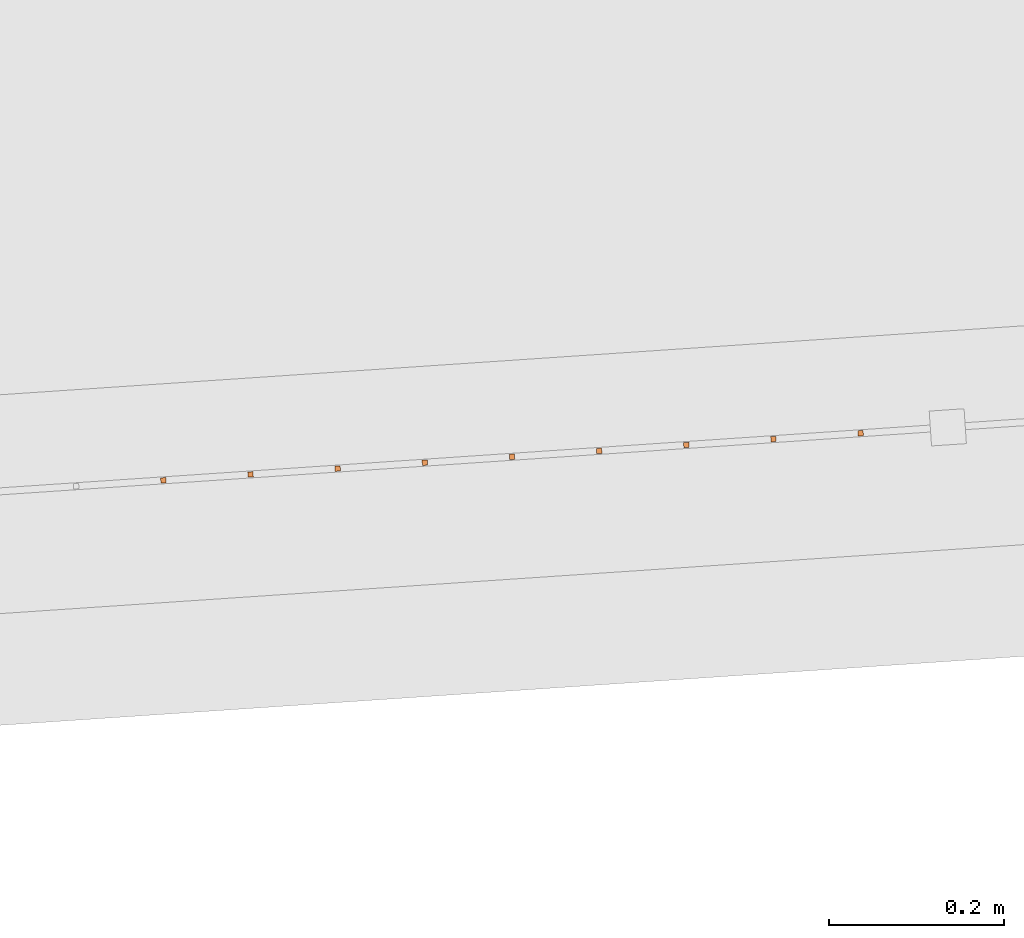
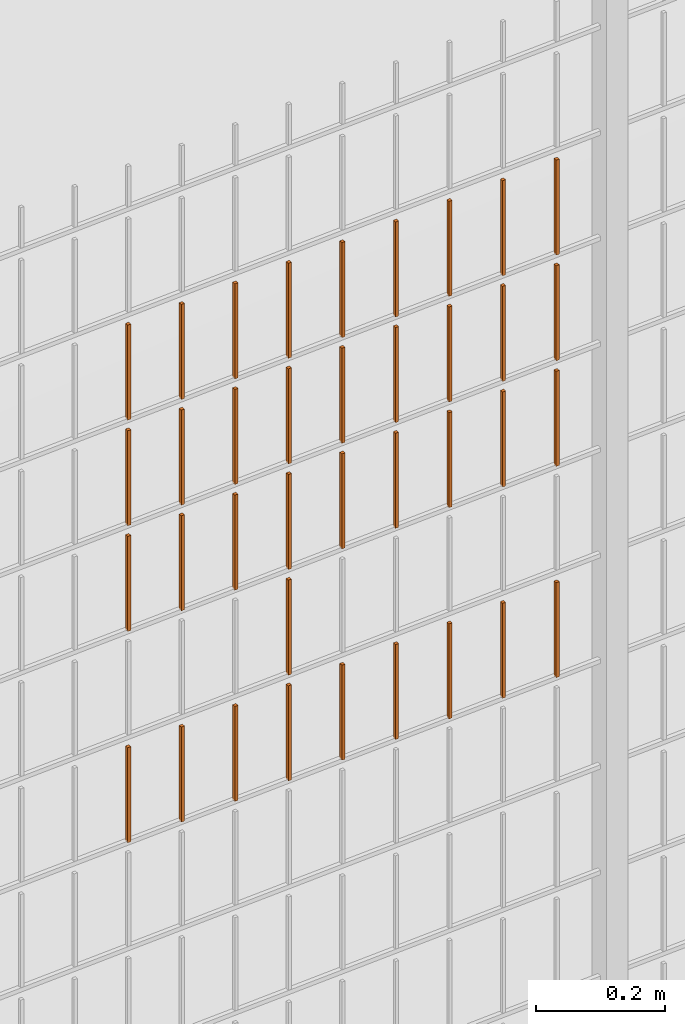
# One storey, part 208 of 1809: 37 proxies, 1 element without a shape of its own.
"""IFC2X3 building model written with IfcOpenShell, lengths in millimetres."""

from ifc_helpers import new_model, entity, si_unit, converted_unit, derived_unit, money_unit, direction, frame, origin_with_axes, place, context, subcontext, project, spatial, faceted_brep, source, transform, mapped, material, type_object, element, aggregate, save


model = new_model("IFC2X3")

# Units and contexts
model_context = context("Model", 3, precision=0.01, world=origin_with_axes(), true_north=direction((0.0, 1.0)))
body_context = subcontext(model_context, "Body", "Model", "MODEL_VIEW")
ifc_project = project(units=[si_unit("LENGTHUNIT", "METRE", prefix="MILLI"), si_unit("AREAUNIT", "SQUARE_METRE"), si_unit("VOLUMEUNIT", "CUBIC_METRE"), converted_unit("PLANEANGLEUNIT", "DEGREE", entity("IfcPlaneAngleMeasure", 0.0174532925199), si_unit("PLANEANGLEUNIT", "RADIAN"), dimensions=[0, 0, 0, 0, 0, 0, 0]), si_unit("SOLIDANGLEUNIT", "STERADIAN"), money_unit("EUR"), converted_unit("TIMEUNIT", "Year", entity("IfcTimeMeasure", 31556926.0), si_unit("TIMEUNIT", "SECOND"), dimensions=[0, 0, 1, 0, 0, 0, 0]), si_unit("MASSUNIT", "GRAM", prefix="KILO"), si_unit("THERMODYNAMICTEMPERATUREUNIT", "DEGREE_CELSIUS"), si_unit("LUMINOUSINTENSITYUNIT", "LUMEN"), si_unit("ENERGYUNIT", "JOULE", prefix="MEGA"), derived_unit("THERMALCONDUCTANCEUNIT", [(si_unit("POWERUNIT", "WATT"), 1), (si_unit("LENGTHUNIT", "METRE"), -1), (si_unit("THERMODYNAMICTEMPERATUREUNIT", "KELVIN"), -1)]), derived_unit("SPECIFICHEATCAPACITYUNIT", [(si_unit("ENERGYUNIT", "JOULE"), 1), (si_unit("MASSUNIT", "GRAM", prefix="KILO"), -1), (si_unit("THERMODYNAMICTEMPERATUREUNIT", "KELVIN"), -1)]), derived_unit("MASSDENSITYUNIT", [(si_unit("MASSUNIT", "GRAM", prefix="KILO"), 1), (si_unit("VOLUMEUNIT", "CUBIC_METRE"), -1)])], contexts=[model_context])

# Site, building, storey
site_placement = place(None, origin_with_axes())
site = spatial("IfcSite", under=ifc_project, at=site_placement, Name="Politse- ja Piirivalveameti ning Päästeameti ühishoone", CompositionType="ELEMENT")
building_placement = place(site_placement, origin_with_axes())
building = spatial("IfcBuilding", under=site, at=building_placement, Name="Politse- ja Piirivalveameti ning Päästeameti ühishoone", CompositionType="ELEMENT")
storey_placement = place(building_placement, origin_with_axes())
storey = spatial("IfcBuildingStorey", under=building, at=storey_placement, Name="Esimene korrus", CompositionType="ELEMENT", Elevation=0.0)

# Proxies
building_element_proxy_type_1 = type_object("IfcBuildingElementProxyType", Name="Railing Type", PredefinedType="NOTDEFINED")
proxy_1_placement = place(storey_placement, frame((89252.001212, -29183.4766571, 203.661247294), z_axis=(0.0, 0.0, 1.0), x_axis=(1.0, 0.0, 0.0)))
proxy_1 = element("IfcBuildingElementProxy", 1, at=proxy_1_placement, inside=storey, type_object=building_element_proxy_type_1, Name="PIIRDEAED")
ifc_material = material(Name="ET-03_Raud")
building_element_proxy_type_2 = type_object("IfcBuildingElementProxyType", Name="IfcBuildingElementProxy", PredefinedType="NOTDEFINED")
shared_shape_1 = source(origin_with_axes(), body_context, "Body", "Brep", [
    faceted_brep([(3.0, 3.0, -0.000752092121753), (-3.0, 3.0, -0.000752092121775), (-3.0, 3.0, 179.99926046), (3.0, 3.0, 179.99926046), (3.0, -3.0, 0.000752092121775), (-3.0, -3.0, 0.000752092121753), (-3.0, -3.0, 180.000764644), (3.0, -3.0, 180.000764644)], [[[0, 1, 2, 3]], [[0, 4, 5, 1]], [[1, 5, 6, 2]], [[3, 2, 6, 7]], [[4, 0, 3, 7]], [[5, 4, 7, 6]]]),
])
proxy_2_placement = place(proxy_1_placement, frame((-62783.6260468, -21538.5717642, 811.458830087), z_axis=(0.0, 0.0, 1.0), x_axis=(1.0, 0.0, 0.0)))
proxy_2 = element("IfcBuildingElementProxy", 2, at=proxy_2_placement, type_object=building_element_proxy_type_2, material=ifc_material, Name="BALUSTER - 001", context=body_context, shape_type="MappedRepresentation", body=[
    mapped(shared_shape_1, transform((0.0, 0.0, 0.0), x_axis=(-0.0673926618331, 0.997726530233, 0.0), y_axis=(-0.997726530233, -0.0673926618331, 0.0), z_axis=(0.0, 0.0, 1.0))),
])
shared_shape_2 = source(origin_with_axes(), body_context, "Body", "Brep", [
    faceted_brep([(3.0, 3.0, -0.000752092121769), (-3.0, 3.0, -0.000752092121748), (-3.0, 3.0, 179.99926046), (3.0, 3.0, 179.99926046), (3.0, -3.0, 0.000752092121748), (-3.0, -3.0, 0.000752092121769), (-3.0, -3.0, 180.000764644), (3.0, -3.0, 180.000764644)], [[[0, 1, 2, 3]], [[0, 4, 5, 1]], [[1, 5, 6, 2]], [[3, 2, 6, 7]], [[4, 0, 3, 7]], [[5, 4, 7, 6]]]),
])
proxy_3_placement = place(proxy_1_placement, frame((-62783.6260468, -21538.5717642, 1211.45883009), z_axis=(0.0, 0.0, 1.0), x_axis=(1.0, 0.0, 0.0)))
proxy_3 = element("IfcBuildingElementProxy", 3, at=proxy_3_placement, type_object=building_element_proxy_type_2, material=ifc_material, Name="BALUSTER - 001", context=body_context, shape_type="MappedRepresentation", body=[
    mapped(shared_shape_2, transform((0.0, 0.0, 0.0), x_axis=(-0.0673926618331, 0.997726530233, 0.0), y_axis=(-0.997726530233, -0.0673926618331, 0.0), z_axis=(0.0, 0.0, 1.0))),
])
shared_shape_3 = source(origin_with_axes(), body_context, "Body", "Brep", [
    faceted_brep([(3.0, 3.0, -0.000752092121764), (-3.0, 3.0, -0.000752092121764), (-3.0, 3.0, 179.99926046), (3.0, 3.0, 179.99926046), (3.0, -3.0, 0.000752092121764), (-3.0, -3.0, 0.000752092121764), (-3.0, -3.0, 180.000764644), (3.0, -3.0, 180.000764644)], [[[0, 1, 2, 3]], [[0, 4, 5, 1]], [[1, 5, 6, 2]], [[3, 2, 6, 7]], [[4, 0, 3, 7]], [[5, 4, 7, 6]]]),
])
proxy_4_placement = place(proxy_1_placement, frame((-62584.0807408, -21525.0932318, 811.508969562), z_axis=(0.0, 0.0, 1.0), x_axis=(1.0, 0.0, 0.0)))
proxy_4 = element("IfcBuildingElementProxy", 4, at=proxy_4_placement, type_object=building_element_proxy_type_2, material=ifc_material, Name="BALUSTER - 001", context=body_context, shape_type="MappedRepresentation", body=[
    mapped(shared_shape_3, transform((0.0, 0.0, 0.0), x_axis=(-0.0673926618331, 0.997726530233, 0.0), y_axis=(-0.997726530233, -0.0673926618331, 0.0), z_axis=(0.0, 0.0, 1.0))),
])
proxy_5_placement = place(proxy_1_placement, frame((-62584.0807408, -21525.0932318, 1211.50896956), z_axis=(0.0, 0.0, 1.0), x_axis=(1.0, 0.0, 0.0)))
proxy_5 = element("IfcBuildingElementProxy", 5, at=proxy_5_placement, type_object=building_element_proxy_type_2, material=ifc_material, Name="BALUSTER - 001", context=body_context, shape_type="MappedRepresentation", body=[
    mapped(shared_shape_3, transform((0.0, 0.0, 0.0), x_axis=(-0.0673926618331, 0.997726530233, 0.0), y_axis=(-0.997726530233, -0.0673926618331, 0.0), z_axis=(0.0, 0.0, 1.0))),
])
proxy_6_placement = place(proxy_1_placement, frame((-62883.3986999, -21545.3110304, 1211.43376035), z_axis=(0.0, 0.0, 1.0), x_axis=(1.0, 0.0, 0.0)))
proxy_6 = element("IfcBuildingElementProxy", 6, at=proxy_6_placement, type_object=building_element_proxy_type_2, material=ifc_material, Name="BALUSTER - 001", context=body_context, shape_type="MappedRepresentation", body=[
    mapped(shared_shape_3, transform((0.0, 0.0, 0.0), x_axis=(-0.0673926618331, 0.997726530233, 0.0), y_axis=(-0.997726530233, -0.0673926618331, 0.0), z_axis=(0.0, 0.0, 1.0))),
])
shared_shape_4 = source(origin_with_axes(), body_context, "Body", "Brep", [
    faceted_brep([(3.0, 3.0, -0.000752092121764), (-3.0, 3.0, -0.000752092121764), (-3.0, 3.0, 179.99926046), (3.0, 3.0, 179.99926046), (3.0, -3.0, 0.000752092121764), (-3.0, -3.0, 0.000752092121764), (-3.0, -3.0, 180.000764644), (3.0, -3.0, 180.000764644)], [[[0, 1, 2, 3]], [[0, 4, 5, 1]], [[1, 5, 6, 2]], [[3, 2, 6, 7]], [[4, 0, 3, 7]], [[5, 4, 7, 6]]]),
])
proxy_7_placement = place(proxy_1_placement, frame((-62384.5354348, -21511.6146995, 1211.55910904), z_axis=(0.0, 0.0, 1.0), x_axis=(1.0, 0.0, 0.0)))
proxy_7 = element("IfcBuildingElementProxy", 7, at=proxy_7_placement, type_object=building_element_proxy_type_2, material=ifc_material, Name="BALUSTER - 001", context=body_context, shape_type="MappedRepresentation", body=[
    mapped(shared_shape_4, transform((0.0, 0.0, 0.0), x_axis=(-0.0673926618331, 0.997726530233, 0.0), y_axis=(-0.997726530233, -0.0673926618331, 0.0), z_axis=(0.0, 0.0, 1.0))),
])
shared_shape_5 = source(origin_with_axes(), body_context, "Body", "Brep", [
    faceted_brep([(3.0, 3.0, -0.000752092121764), (-3.0, 3.0, -0.000752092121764), (-3.0, 3.0, 179.99926046), (3.0, 3.0, 179.99926046), (3.0, -3.0, 0.000752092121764), (-3.0, -3.0, 0.000752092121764), (-3.0, -3.0, 180.000764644), (3.0, -3.0, 180.000764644)], [[[0, 1, 2, 3]], [[0, 4, 5, 1]], [[1, 5, 6, 2]], [[3, 2, 6, 7]], [[4, 0, 3, 7]], [[5, 4, 7, 6]]]),
])
proxy_8_placement = place(proxy_1_placement, frame((-62983.1713529, -21552.0502966, 811.408690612), z_axis=(0.0, 0.0, 1.0), x_axis=(1.0, 0.0, 0.0)))
proxy_8 = element("IfcBuildingElementProxy", 8, at=proxy_8_placement, type_object=building_element_proxy_type_2, material=ifc_material, Name="BALUSTER - 001", context=body_context, shape_type="MappedRepresentation", body=[
    mapped(shared_shape_5, transform((0.0, 0.0, 0.0), x_axis=(-0.0673926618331, 0.997726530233, 0.0), y_axis=(-0.997726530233, -0.0673926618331, 0.0), z_axis=(0.0, 0.0, 1.0))),
])
proxy_9_placement = place(proxy_1_placement, frame((-63082.9440059, -21558.7895628, 1211.38362087), z_axis=(0.0, 0.0, 1.0), x_axis=(1.0, 0.0, 0.0)))
proxy_9 = element("IfcBuildingElementProxy", 9, at=proxy_9_placement, type_object=building_element_proxy_type_2, material=ifc_material, Name="BALUSTER - 001", context=body_context, shape_type="MappedRepresentation", body=[
    mapped(shared_shape_5, transform((0.0, 0.0, 0.0), x_axis=(-0.0673926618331, 0.997726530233, 0.0), y_axis=(-0.997726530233, -0.0673926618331, 0.0), z_axis=(0.0, 0.0, 1.0))),
])
shared_shape_6 = source(origin_with_axes(), body_context, "Body", "Brep", [
    faceted_brep([(3.0, 3.0, -0.000752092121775), (-3.0, 3.0, -0.000752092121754), (-3.0, 3.0, 179.99926046), (3.0, 3.0, 179.99926046), (3.0, -3.0, 0.000752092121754), (-3.0, -3.0, 0.000752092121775), (-3.0, -3.0, 180.000764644), (3.0, -3.0, 180.000764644)], [[[0, 1, 2, 3]], [[0, 4, 5, 1]], [[1, 5, 6, 2]], [[3, 2, 6, 7]], [[4, 0, 3, 7]], [[5, 4, 7, 6]]]),
])
proxy_10_placement = place(proxy_1_placement, frame((-62983.1713529, -21552.0502966, 1411.40869061), z_axis=(0.0, 0.0, 1.0), x_axis=(1.0, 0.0, 0.0)))
proxy_10 = element("IfcBuildingElementProxy", 10, at=proxy_10_placement, type_object=building_element_proxy_type_2, material=ifc_material, Name="BALUSTER - 001", context=body_context, shape_type="MappedRepresentation", body=[
    mapped(shared_shape_6, transform((0.0, 0.0, 0.0), x_axis=(-0.0673926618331, 0.997726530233, 0.0), y_axis=(-0.997726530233, -0.0673926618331, 0.0), z_axis=(0.0, 0.0, 1.0))),
])
proxy_11_placement = place(proxy_1_placement, frame((-62983.1713529, -21552.0502966, 1611.40869061), z_axis=(0.0, 0.0, 1.0), x_axis=(1.0, 0.0, 0.0)))
proxy_11 = element("IfcBuildingElementProxy", 11, at=proxy_11_placement, type_object=building_element_proxy_type_2, material=ifc_material, Name="BALUSTER - 001", context=body_context, shape_type="MappedRepresentation", body=[
    mapped(shared_shape_6, transform((0.0, 0.0, 0.0), x_axis=(-0.0673926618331, 0.997726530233, 0.0), y_axis=(-0.997726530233, -0.0673926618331, 0.0), z_axis=(0.0, 0.0, 1.0))),
])
shared_shape_7 = source(origin_with_axes(), body_context, "Body", "Brep", [
    faceted_brep([(3.0, 3.0, -0.000752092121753), (-3.0, 3.0, -0.000752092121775), (-3.0, 3.0, 179.99926046), (3.0, 3.0, 179.99926046), (3.0, -3.0, 0.000752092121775), (-3.0, -3.0, 0.000752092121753), (-3.0, -3.0, 180.000764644), (3.0, -3.0, 180.000764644)], [[[0, 1, 2, 3]], [[0, 4, 5, 1]], [[1, 5, 6, 2]], [[3, 2, 6, 7]], [[4, 0, 3, 7]], [[5, 4, 7, 6]]]),
])
proxy_12_placement = place(proxy_1_placement, frame((-63082.9440059, -21558.7895628, 811.383620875), z_axis=(0.0, 0.0, 1.0), x_axis=(1.0, 0.0, 0.0)))
proxy_12 = element("IfcBuildingElementProxy", 12, at=proxy_12_placement, type_object=building_element_proxy_type_2, material=ifc_material, Name="BALUSTER - 001", context=body_context, shape_type="MappedRepresentation", body=[
    mapped(shared_shape_7, transform((0.0, 0.0, 0.0), x_axis=(-0.0673926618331, 0.997726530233, 0.0), y_axis=(-0.997726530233, -0.0673926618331, 0.0), z_axis=(0.0, 0.0, 1.0))),
])
shared_shape_8 = source(origin_with_axes(), body_context, "Body", "Brep", [
    faceted_brep([(3.0, 3.0, -0.000752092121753), (-3.0, 3.0, -0.000752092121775), (-3.0, 3.0, 179.99926046), (3.0, 3.0, 179.99926046), (3.0, -3.0, 0.000752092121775), (-3.0, -3.0, 0.000752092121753), (-3.0, -3.0, 180.000764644), (3.0, -3.0, 180.000764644)], [[[0, 1, 2, 3]], [[0, 4, 5, 1]], [[1, 5, 6, 2]], [[3, 2, 6, 7]], [[4, 0, 3, 7]], [[5, 4, 7, 6]]]),
])
proxy_13_placement = place(proxy_1_placement, frame((-62883.3986999, -21545.3110304, 811.433760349), z_axis=(0.0, 0.0, 1.0), x_axis=(1.0, 0.0, 0.0)))
proxy_13 = element("IfcBuildingElementProxy", 13, at=proxy_13_placement, type_object=building_element_proxy_type_2, material=ifc_material, Name="BALUSTER - 001", context=body_context, shape_type="MappedRepresentation", body=[
    mapped(shared_shape_8, transform((0.0, 0.0, 0.0), x_axis=(-0.0673926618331, 0.997726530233, 0.0), y_axis=(-0.997726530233, -0.0673926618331, 0.0), z_axis=(0.0, 0.0, 1.0))),
])
shared_shape_9 = source(origin_with_axes(), body_context, "Body", "Brep", [
    faceted_brep([(3.0, 3.0, -0.000752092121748), (-3.0, 3.0, -0.00075209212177), (-3.0, 3.0, 179.99926046), (3.0, 3.0, 179.99926046), (3.0, -3.0, 0.00075209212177), (-3.0, -3.0, 0.000752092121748), (-3.0, -3.0, 180.000764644), (3.0, -3.0, 180.000764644)], [[[0, 1, 2, 3]], [[0, 4, 5, 1]], [[1, 5, 6, 2]], [[3, 2, 6, 7]], [[4, 0, 3, 7]], [[5, 4, 7, 6]]]),
])
proxy_14_placement = place(proxy_1_placement, frame((-62683.8533938, -21531.832498, 811.483899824), z_axis=(0.0, 0.0, 1.0), x_axis=(1.0, 0.0, 0.0)))
proxy_14 = element("IfcBuildingElementProxy", 14, at=proxy_14_placement, type_object=building_element_proxy_type_2, material=ifc_material, Name="BALUSTER - 001", context=body_context, shape_type="MappedRepresentation", body=[
    mapped(shared_shape_9, transform((0.0, 0.0, 0.0), x_axis=(-0.0673926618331, 0.997726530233, 0.0), y_axis=(-0.997726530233, -0.0673926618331, 0.0), z_axis=(0.0, 0.0, 1.0))),
])
shared_shape_10 = source(origin_with_axes(), body_context, "Body", "Brep", [
    faceted_brep([(3.0, 3.0, -0.000752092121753), (-3.0, 3.0, -0.000752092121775), (-3.0, 3.0, 179.99926046), (3.0, 3.0, 179.99926046), (3.0, -3.0, 0.000752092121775), (-3.0, -3.0, 0.000752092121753), (-3.0, -3.0, 180.000764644), (3.0, -3.0, 180.000764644)], [[[0, 1, 2, 3]], [[0, 4, 5, 1]], [[1, 5, 6, 2]], [[3, 2, 6, 7]], [[4, 0, 3, 7]], [[5, 4, 7, 6]]]),
])
proxy_15_placement = place(proxy_1_placement, frame((-62384.5354348, -21511.6146995, 811.559109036), z_axis=(0.0, 0.0, 1.0), x_axis=(1.0, 0.0, 0.0)))
proxy_15 = element("IfcBuildingElementProxy", 15, at=proxy_15_placement, type_object=building_element_proxy_type_2, material=ifc_material, Name="BALUSTER - 001", context=body_context, shape_type="MappedRepresentation", body=[
    mapped(shared_shape_10, transform((0.0, 0.0, 0.0), x_axis=(-0.0673926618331, 0.997726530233, 0.0), y_axis=(-0.997726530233, -0.0673926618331, 0.0), z_axis=(0.0, 0.0, 1.0))),
])
shared_shape_11 = source(origin_with_axes(), body_context, "Body", "Brep", [
    faceted_brep([(3.0, 3.0, -0.000752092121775), (-3.0, 3.0, -0.000752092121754), (-3.0, 3.0, 179.99926046), (3.0, 3.0, 179.99926046), (3.0, -3.0, 0.000752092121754), (-3.0, -3.0, 0.000752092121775), (-3.0, -3.0, 180.000764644), (3.0, -3.0, 180.000764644)], [[[0, 1, 2, 3]], [[0, 4, 5, 1]], [[1, 5, 6, 2]], [[3, 2, 6, 7]], [[4, 0, 3, 7]], [[5, 4, 7, 6]]]),
])
proxy_16_placement = place(proxy_1_placement, frame((-62983.1713529, -21552.0502966, 1211.40869061), z_axis=(0.0, 0.0, 1.0), x_axis=(1.0, 0.0, 0.0)))
proxy_16 = element("IfcBuildingElementProxy", 16, at=proxy_16_placement, type_object=building_element_proxy_type_2, material=ifc_material, Name="BALUSTER - 001", context=body_context, shape_type="MappedRepresentation", body=[
    mapped(shared_shape_11, transform((0.0, 0.0, 0.0), x_axis=(-0.0673926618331, 0.997726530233, 0.0), y_axis=(-0.997726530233, -0.0673926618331, 0.0), z_axis=(0.0, 0.0, 1.0))),
])
shared_shape_12 = source(origin_with_axes(), body_context, "Body", "Brep", [
    faceted_brep([(3.0, 3.0, -0.000752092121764), (-3.0, 3.0, -0.000752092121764), (-3.0, 3.0, 179.99926046), (3.0, 3.0, 179.99926046), (3.0, -3.0, 0.000752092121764), (-3.0, -3.0, 0.000752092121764), (-3.0, -3.0, 180.000764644), (3.0, -3.0, 180.000764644)], [[[0, 1, 2, 3]], [[0, 4, 5, 1]], [[1, 5, 6, 2]], [[3, 2, 6, 7]], [[4, 0, 3, 7]], [[5, 4, 7, 6]]]),
])
proxy_17_placement = place(proxy_1_placement, frame((-62384.5354348, -21511.6146995, 1411.55910904), z_axis=(0.0, 0.0, 1.0), x_axis=(1.0, 0.0, 0.0)))
proxy_17 = element("IfcBuildingElementProxy", 17, at=proxy_17_placement, type_object=building_element_proxy_type_2, material=ifc_material, Name="BALUSTER - 001", context=body_context, shape_type="MappedRepresentation", body=[
    mapped(shared_shape_12, transform((0.0, 0.0, 0.0), x_axis=(-0.0673926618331, 0.997726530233, 0.0), y_axis=(-0.997726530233, -0.0673926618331, 0.0), z_axis=(0.0, 0.0, 1.0))),
])
proxy_18_placement = place(proxy_1_placement, frame((-62384.5354348, -21511.6146995, 1611.55910904), z_axis=(0.0, 0.0, 1.0), x_axis=(1.0, 0.0, 0.0)))
proxy_18 = element("IfcBuildingElementProxy", 18, at=proxy_18_placement, type_object=building_element_proxy_type_2, material=ifc_material, Name="BALUSTER - 001", context=body_context, shape_type="MappedRepresentation", body=[
    mapped(shared_shape_12, transform((0.0, 0.0, 0.0), x_axis=(-0.0673926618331, 0.997726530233, 0.0), y_axis=(-0.997726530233, -0.0673926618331, 0.0), z_axis=(0.0, 0.0, 1.0))),
])
shared_shape_13 = source(origin_with_axes(), body_context, "Body", "Brep", [
    faceted_brep([(3.0, 3.0, -0.000752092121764), (-3.0, 3.0, -0.000752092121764), (-3.0, 3.0, 179.99926046), (3.0, 3.0, 179.99926046), (3.0, -3.0, 0.000752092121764), (-3.0, -3.0, 0.000752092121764), (-3.0, -3.0, 180.000764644), (3.0, -3.0, 180.000764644)], [[[0, 1, 2, 3]], [[0, 4, 5, 1]], [[1, 5, 6, 2]], [[3, 2, 6, 7]], [[4, 0, 3, 7]], [[5, 4, 7, 6]]]),
])
proxy_19_placement = place(proxy_1_placement, frame((-62584.0807408, -21525.0932318, 1411.50896956), z_axis=(0.0, 0.0, 1.0), x_axis=(1.0, 0.0, 0.0)))
proxy_19 = element("IfcBuildingElementProxy", 19, at=proxy_19_placement, type_object=building_element_proxy_type_2, material=ifc_material, Name="BALUSTER - 001", context=body_context, shape_type="MappedRepresentation", body=[
    mapped(shared_shape_13, transform((0.0, 0.0, 0.0), x_axis=(-0.0673926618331, 0.997726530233, 0.0), y_axis=(-0.997726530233, -0.0673926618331, 0.0), z_axis=(0.0, 0.0, 1.0))),
])
proxy_20_placement = place(proxy_1_placement, frame((-62883.3986999, -21545.3110304, 1411.43376035), z_axis=(0.0, 0.0, 1.0), x_axis=(1.0, 0.0, 0.0)))
proxy_20 = element("IfcBuildingElementProxy", 20, at=proxy_20_placement, type_object=building_element_proxy_type_2, material=ifc_material, Name="BALUSTER - 001", context=body_context, shape_type="MappedRepresentation", body=[
    mapped(shared_shape_13, transform((0.0, 0.0, 0.0), x_axis=(-0.0673926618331, 0.997726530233, 0.0), y_axis=(-0.997726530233, -0.0673926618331, 0.0), z_axis=(0.0, 0.0, 1.0))),
])
proxy_21_placement = place(proxy_1_placement, frame((-62584.0807408, -21525.0932318, 1611.50896956), z_axis=(0.0, 0.0, 1.0), x_axis=(1.0, 0.0, 0.0)))
proxy_21 = element("IfcBuildingElementProxy", 21, at=proxy_21_placement, type_object=building_element_proxy_type_2, material=ifc_material, Name="BALUSTER - 001", context=body_context, shape_type="MappedRepresentation", body=[
    mapped(shared_shape_13, transform((0.0, 0.0, 0.0), x_axis=(-0.0673926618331, 0.997726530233, 0.0), y_axis=(-0.997726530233, -0.0673926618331, 0.0), z_axis=(0.0, 0.0, 1.0))),
])
proxy_22_placement = place(proxy_1_placement, frame((-62883.3986999, -21545.3110304, 1611.43376035), z_axis=(0.0, 0.0, 1.0), x_axis=(1.0, 0.0, 0.0)))
proxy_22 = element("IfcBuildingElementProxy", 22, at=proxy_22_placement, type_object=building_element_proxy_type_2, material=ifc_material, Name="BALUSTER - 001", context=body_context, shape_type="MappedRepresentation", body=[
    mapped(shared_shape_13, transform((0.0, 0.0, 0.0), x_axis=(-0.0673926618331, 0.997726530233, 0.0), y_axis=(-0.997726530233, -0.0673926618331, 0.0), z_axis=(0.0, 0.0, 1.0))),
])
shared_shape_14 = source(origin_with_axes(), body_context, "Body", "Brep", [
    faceted_brep([(3.0, 3.0, -0.000752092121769), (-3.0, 3.0, -0.000752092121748), (-3.0, 3.0, 179.99926046), (3.0, 3.0, 179.99926046), (3.0, -3.0, 0.000752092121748), (-3.0, -3.0, 0.000752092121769), (-3.0, -3.0, 180.000764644), (3.0, -3.0, 180.000764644)], [[[0, 1, 2, 3]], [[0, 4, 5, 1]], [[1, 5, 6, 2]], [[3, 2, 6, 7]], [[4, 0, 3, 7]], [[5, 4, 7, 6]]]),
])
proxy_23_placement = place(proxy_1_placement, frame((-62783.6260468, -21538.5717642, 1411.45883009), z_axis=(0.0, 0.0, 1.0), x_axis=(1.0, 0.0, 0.0)))
proxy_23 = element("IfcBuildingElementProxy", 23, at=proxy_23_placement, type_object=building_element_proxy_type_2, material=ifc_material, Name="BALUSTER - 001", context=body_context, shape_type="MappedRepresentation", body=[
    mapped(shared_shape_14, transform((0.0, 0.0, 0.0), x_axis=(-0.0673926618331, 0.997726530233, 0.0), y_axis=(-0.997726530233, -0.0673926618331, 0.0), z_axis=(0.0, 0.0, 1.0))),
])
proxy_24_placement = place(proxy_1_placement, frame((-62783.6260468, -21538.5717642, 1611.45883009), z_axis=(0.0, 0.0, 1.0), x_axis=(1.0, 0.0, 0.0)))
proxy_24 = element("IfcBuildingElementProxy", 24, at=proxy_24_placement, type_object=building_element_proxy_type_2, material=ifc_material, Name="BALUSTER - 001", context=body_context, shape_type="MappedRepresentation", body=[
    mapped(shared_shape_14, transform((0.0, 0.0, 0.0), x_axis=(-0.0673926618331, 0.997726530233, 0.0), y_axis=(-0.997726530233, -0.0673926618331, 0.0), z_axis=(0.0, 0.0, 1.0))),
])
shared_shape_15 = source(origin_with_axes(), body_context, "Body", "Brep", [
    faceted_brep([(3.0, 3.0, -0.000752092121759), (-3.0, 3.0, -0.000752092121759), (-3.0, 3.0, 179.99926046), (3.0, 3.0, 179.99926046), (3.0, -3.0, 0.000752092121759), (-3.0, -3.0, 0.000752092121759), (-3.0, -3.0, 180.000764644), (3.0, -3.0, 180.000764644)], [[[0, 1, 2, 3]], [[0, 4, 5, 1]], [[1, 5, 6, 2]], [[3, 2, 6, 7]], [[4, 0, 3, 7]], [[5, 4, 7, 6]]]),
])
proxy_25_placement = place(proxy_1_placement, frame((-62683.8533938, -21531.832498, 1211.48389982), z_axis=(0.0, 0.0, 1.0), x_axis=(1.0, 0.0, 0.0)))
proxy_25 = element("IfcBuildingElementProxy", 25, at=proxy_25_placement, type_object=building_element_proxy_type_2, material=ifc_material, Name="BALUSTER - 001", context=body_context, shape_type="MappedRepresentation", body=[
    mapped(shared_shape_15, transform((0.0, 0.0, 0.0), x_axis=(-0.0673926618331, 0.997726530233, 0.0), y_axis=(-0.997726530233, -0.0673926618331, 0.0), z_axis=(0.0, 0.0, 1.0))),
])
shared_shape_16 = source(origin_with_axes(), body_context, "Body", "Brep", [
    faceted_brep([(3.0, 3.0, -0.000752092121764), (-3.0, 3.0, -0.000752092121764), (-3.0, 3.0, 179.99926046), (3.0, 3.0, 179.99926046), (3.0, -3.0, 0.000752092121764), (-3.0, -3.0, 0.000752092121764), (-3.0, -3.0, 180.000764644), (3.0, -3.0, 180.000764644)], [[[0, 1, 2, 3]], [[0, 4, 5, 1]], [[1, 5, 6, 2]], [[3, 2, 6, 7]], [[4, 0, 3, 7]], [[5, 4, 7, 6]]]),
])
proxy_26_placement = place(proxy_1_placement, frame((-62484.3080878, -21518.3539657, 811.534039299), z_axis=(0.0, 0.0, 1.0), x_axis=(1.0, 0.0, 0.0)))
proxy_26 = element("IfcBuildingElementProxy", 26, at=proxy_26_placement, type_object=building_element_proxy_type_2, material=ifc_material, Name="BALUSTER - 001", context=body_context, shape_type="MappedRepresentation", body=[
    mapped(shared_shape_16, transform((0.0, 0.0, 0.0), x_axis=(-0.0673926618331, 0.997726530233, 0.0), y_axis=(-0.997726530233, -0.0673926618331, 0.0), z_axis=(0.0, 0.0, 1.0))),
])
proxy_27_placement = place(proxy_1_placement, frame((-62484.3080878, -21518.3539657, 1211.5340393), z_axis=(0.0, 0.0, 1.0), x_axis=(1.0, 0.0, 0.0)))
proxy_27 = element("IfcBuildingElementProxy", 27, at=proxy_27_placement, type_object=building_element_proxy_type_2, material=ifc_material, Name="BALUSTER - 001", context=body_context, shape_type="MappedRepresentation", body=[
    mapped(shared_shape_16, transform((0.0, 0.0, 0.0), x_axis=(-0.0673926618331, 0.997726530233, 0.0), y_axis=(-0.997726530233, -0.0673926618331, 0.0), z_axis=(0.0, 0.0, 1.0))),
])
shared_shape_17 = source(origin_with_axes(), body_context, "Body", "Brep", [
    faceted_brep([(3.0, 3.0, -0.000752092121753), (-3.0, 3.0, -0.000752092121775), (-3.0, 3.0, 179.99926046), (3.0, 3.0, 179.99926046), (3.0, -3.0, 0.000752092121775), (-3.0, -3.0, 0.000752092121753), (-3.0, -3.0, 180.000764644), (3.0, -3.0, 180.000764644)], [[[0, 1, 2, 3]], [[0, 4, 5, 1]], [[1, 5, 6, 2]], [[3, 2, 6, 7]], [[4, 0, 3, 7]], [[5, 4, 7, 6]]]),
])
proxy_28_placement = place(proxy_1_placement, frame((-62284.7627817, -21504.8754333, 811.584178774), z_axis=(0.0, 0.0, 1.0), x_axis=(1.0, 0.0, 0.0)))
proxy_28 = element("IfcBuildingElementProxy", 28, at=proxy_28_placement, type_object=building_element_proxy_type_2, material=ifc_material, Name="BALUSTER - 001", context=body_context, shape_type="MappedRepresentation", body=[
    mapped(shared_shape_17, transform((0.0, 0.0, 0.0), x_axis=(-0.0673926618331, 0.997726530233, 0.0), y_axis=(-0.997726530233, -0.0673926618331, 0.0), z_axis=(0.0, 0.0, 1.0))),
])
shared_shape_18 = source(origin_with_axes(), body_context, "Body", "Brep", [
    faceted_brep([(3.0, 3.0, -0.000752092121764), (-3.0, 3.0, -0.000752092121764), (-3.0, 3.0, 179.99926046), (3.0, 3.0, 179.99926046), (3.0, -3.0, 0.000752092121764), (-3.0, -3.0, 0.000752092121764), (-3.0, -3.0, 180.000764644), (3.0, -3.0, 180.000764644)], [[[0, 1, 2, 3]], [[0, 4, 5, 1]], [[1, 5, 6, 2]], [[3, 2, 6, 7]], [[4, 0, 3, 7]], [[5, 4, 7, 6]]]),
])
proxy_29_placement = place(proxy_1_placement, frame((-62484.3080878, -21518.3539657, 1411.5340393), z_axis=(0.0, 0.0, 1.0), x_axis=(1.0, 0.0, 0.0)))
proxy_29 = element("IfcBuildingElementProxy", 29, at=proxy_29_placement, type_object=building_element_proxy_type_2, material=ifc_material, Name="BALUSTER - 001", context=body_context, shape_type="MappedRepresentation", body=[
    mapped(shared_shape_18, transform((0.0, 0.0, 0.0), x_axis=(-0.0673926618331, 0.997726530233, 0.0), y_axis=(-0.997726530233, -0.0673926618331, 0.0), z_axis=(0.0, 0.0, 1.0))),
])
proxy_30_placement = place(proxy_1_placement, frame((-62484.3080878, -21518.3539657, 1611.5340393), z_axis=(0.0, 0.0, 1.0), x_axis=(1.0, 0.0, 0.0)))
proxy_30 = element("IfcBuildingElementProxy", 30, at=proxy_30_placement, type_object=building_element_proxy_type_2, material=ifc_material, Name="BALUSTER - 001", context=body_context, shape_type="MappedRepresentation", body=[
    mapped(shared_shape_18, transform((0.0, 0.0, 0.0), x_axis=(-0.0673926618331, 0.997726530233, 0.0), y_axis=(-0.997726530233, -0.0673926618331, 0.0), z_axis=(0.0, 0.0, 1.0))),
])
shared_shape_19 = source(origin_with_axes(), body_context, "Body", "Brep", [
    faceted_brep([(3.0, 3.0, -0.000752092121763), (-3.0, 3.0, -0.000752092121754), (-3.00000000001, 3.0, 179.99926046), (2.99999999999, 3.0, 179.99926046), (3.0, -3.0, 0.000752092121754), (-3.0, -3.0, 0.000752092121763), (-3.00000000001, -3.0, 180.000764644), (2.99999999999, -3.0, 180.000764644)], [[[0, 1, 2, 3]], [[0, 4, 5, 1]], [[1, 5, 6, 2]], [[3, 2, 6, 7]], [[4, 0, 3, 7]], [[5, 4, 7, 6]]]),
])
proxy_31_placement = place(proxy_1_placement, frame((-62783.6260468, -21538.5717642, 1011.45883009), z_axis=(0.0, 0.0, 1.0), x_axis=(1.0, 0.0, 0.0)))
proxy_31 = element("IfcBuildingElementProxy", 31, at=proxy_31_placement, type_object=building_element_proxy_type_2, material=ifc_material, Name="BALUSTER - 001", context=body_context, shape_type="MappedRepresentation", body=[
    mapped(shared_shape_19, transform((0.0, 0.0, 0.0), x_axis=(-0.0673926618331, 0.997726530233, 0.0), y_axis=(-0.997726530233, -0.0673926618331, 0.0), z_axis=(0.0, 0.0, 1.0))),
])
shared_shape_20 = source(origin_with_axes(), body_context, "Body", "Brep", [
    faceted_brep([(3.0, 3.0, -0.000752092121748), (-3.0, 3.0, -0.00075209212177), (-3.0, 3.0, 179.99926046), (3.0, 3.0, 179.99926046), (3.0, -3.0, 0.00075209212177), (-3.0, -3.0, 0.000752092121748), (-3.0, -3.0, 180.000764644), (3.0, -3.0, 180.000764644)], [[[0, 1, 2, 3]], [[0, 4, 5, 1]], [[1, 5, 6, 2]], [[3, 2, 6, 7]], [[4, 0, 3, 7]], [[5, 4, 7, 6]]]),
])
proxy_32_placement = place(proxy_1_placement, frame((-62284.7627817, -21504.8754333, 1211.58417877), z_axis=(0.0, 0.0, 1.0), x_axis=(1.0, 0.0, 0.0)))
proxy_32 = element("IfcBuildingElementProxy", 32, at=proxy_32_placement, type_object=building_element_proxy_type_2, material=ifc_material, Name="BALUSTER - 001", context=body_context, shape_type="MappedRepresentation", body=[
    mapped(shared_shape_20, transform((0.0, 0.0, 0.0), x_axis=(-0.0673926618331, 0.997726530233, 0.0), y_axis=(-0.997726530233, -0.0673926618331, 0.0), z_axis=(0.0, 0.0, 1.0))),
])
shared_shape_21 = source(origin_with_axes(), body_context, "Body", "Brep", [
    faceted_brep([(3.0, 3.0, -0.000752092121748), (-3.0, 3.0, -0.00075209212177), (-3.0, 3.0, 179.99926046), (3.0, 3.0, 179.99926046), (3.0, -3.0, 0.00075209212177), (-3.0, -3.0, 0.000752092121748), (-3.0, -3.0, 180.000764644), (3.0, -3.0, 180.000764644)], [[[0, 1, 2, 3]], [[0, 4, 5, 1]], [[1, 5, 6, 2]], [[3, 2, 6, 7]], [[4, 0, 3, 7]], [[5, 4, 7, 6]]]),
])
proxy_33_placement = place(proxy_1_placement, frame((-62284.7627817, -21504.8754333, 1411.58417877), z_axis=(0.0, 0.0, 1.0), x_axis=(1.0, 0.0, 0.0)))
proxy_33 = element("IfcBuildingElementProxy", 33, at=proxy_33_placement, type_object=building_element_proxy_type_2, material=ifc_material, Name="BALUSTER - 001", context=body_context, shape_type="MappedRepresentation", body=[
    mapped(shared_shape_21, transform((0.0, 0.0, 0.0), x_axis=(-0.0673926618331, 0.997726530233, 0.0), y_axis=(-0.997726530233, -0.0673926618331, 0.0), z_axis=(0.0, 0.0, 1.0))),
])
proxy_34_placement = place(proxy_1_placement, frame((-62284.7627817, -21504.8754333, 1611.58417877), z_axis=(0.0, 0.0, 1.0), x_axis=(1.0, 0.0, 0.0)))
proxy_34 = element("IfcBuildingElementProxy", 34, at=proxy_34_placement, type_object=building_element_proxy_type_2, material=ifc_material, Name="BALUSTER - 001", context=body_context, shape_type="MappedRepresentation", body=[
    mapped(shared_shape_21, transform((0.0, 0.0, 0.0), x_axis=(-0.0673926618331, 0.997726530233, 0.0), y_axis=(-0.997726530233, -0.0673926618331, 0.0), z_axis=(0.0, 0.0, 1.0))),
])
shared_shape_22 = source(origin_with_axes(), body_context, "Body", "Brep", [
    faceted_brep([(3.0, 3.0, -0.000752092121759), (-3.0, 3.0, -0.000752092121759), (-3.0, 3.0, 179.99926046), (3.0, 3.0, 179.99926046), (3.0, -3.0, 0.000752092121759), (-3.0, -3.0, 0.000752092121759), (-3.0, -3.0, 180.000764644), (3.0, -3.0, 180.000764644)], [[[0, 1, 2, 3]], [[0, 4, 5, 1]], [[1, 5, 6, 2]], [[3, 2, 6, 7]], [[4, 0, 3, 7]], [[5, 4, 7, 6]]]),
])
proxy_35_placement = place(proxy_1_placement, frame((-62683.8533938, -21531.832498, 1411.48389982), z_axis=(0.0, 0.0, 1.0), x_axis=(1.0, 0.0, 0.0)))
proxy_35 = element("IfcBuildingElementProxy", 35, at=proxy_35_placement, type_object=building_element_proxy_type_2, material=ifc_material, Name="BALUSTER - 001", context=body_context, shape_type="MappedRepresentation", body=[
    mapped(shared_shape_22, transform((0.0, 0.0, 0.0), x_axis=(-0.0673926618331, 0.997726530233, 0.0), y_axis=(-0.997726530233, -0.0673926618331, 0.0), z_axis=(0.0, 0.0, 1.0))),
])
proxy_36_placement = place(proxy_1_placement, frame((-62683.8533938, -21531.832498, 1611.48389982), z_axis=(0.0, 0.0, 1.0), x_axis=(1.0, 0.0, 0.0)))
proxy_36 = element("IfcBuildingElementProxy", 36, at=proxy_36_placement, type_object=building_element_proxy_type_2, material=ifc_material, Name="BALUSTER - 001", context=body_context, shape_type="MappedRepresentation", body=[
    mapped(shared_shape_22, transform((0.0, 0.0, 0.0), x_axis=(-0.0673926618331, 0.997726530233, 0.0), y_axis=(-0.997726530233, -0.0673926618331, 0.0), z_axis=(0.0, 0.0, 1.0))),
])
shared_shape_23 = source(origin_with_axes(), body_context, "Body", "Brep", [
    faceted_brep([(3.0, 3.0, -0.000752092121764), (-3.0, 3.0, -0.000752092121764), (-3.0, 3.0, 179.99926046), (3.0, 3.0, 179.99926046), (3.0, -3.0, 0.000752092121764), (-3.0, -3.0, 0.000752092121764), (-3.0, -3.0, 180.000764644), (3.0, -3.0, 180.000764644)], [[[0, 1, 2, 3]], [[0, 4, 5, 1]], [[1, 5, 6, 2]], [[3, 2, 6, 7]], [[4, 0, 3, 7]], [[5, 4, 7, 6]]]),
])
proxy_37_placement = place(proxy_1_placement, frame((-63082.9440059, -21558.7895628, 1411.38362087), z_axis=(0.0, 0.0, 1.0), x_axis=(1.0, 0.0, 0.0)))
proxy_37 = element("IfcBuildingElementProxy", 37, at=proxy_37_placement, type_object=building_element_proxy_type_2, material=ifc_material, Name="BALUSTER - 001", context=body_context, shape_type="MappedRepresentation", body=[
    mapped(shared_shape_23, transform((0.0, 0.0, 0.0), x_axis=(-0.0673926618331, 0.997726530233, 0.0), y_axis=(-0.997726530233, -0.0673926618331, 0.0), z_axis=(0.0, 0.0, 1.0))),
])
proxy_38_placement = place(proxy_1_placement, frame((-63082.9440059, -21558.7895628, 1611.38362087), z_axis=(0.0, 0.0, 1.0), x_axis=(1.0, 0.0, 0.0)))
proxy_38 = element("IfcBuildingElementProxy", 38, at=proxy_38_placement, type_object=building_element_proxy_type_2, material=ifc_material, Name="BALUSTER - 001", context=body_context, shape_type="MappedRepresentation", body=[
    mapped(shared_shape_23, transform((0.0, 0.0, 0.0), x_axis=(-0.0673926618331, 0.997726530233, 0.0), y_axis=(-0.997726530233, -0.0673926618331, 0.0), z_axis=(0.0, 0.0, 1.0))),
])
aggregate(proxy_1, [proxy_28, proxy_15, proxy_26, proxy_4, proxy_14, proxy_2, proxy_13, proxy_8, proxy_12, proxy_31, proxy_32, proxy_7, proxy_27, proxy_5, proxy_25, proxy_3, proxy_6, proxy_16, proxy_9, proxy_33, proxy_17, proxy_29, proxy_19, proxy_35, proxy_23, proxy_20, proxy_10, proxy_37, proxy_34, proxy_18, proxy_30, proxy_21, proxy_36, proxy_24, proxy_22, proxy_11, proxy_38])

save(model, "model.ifc")
